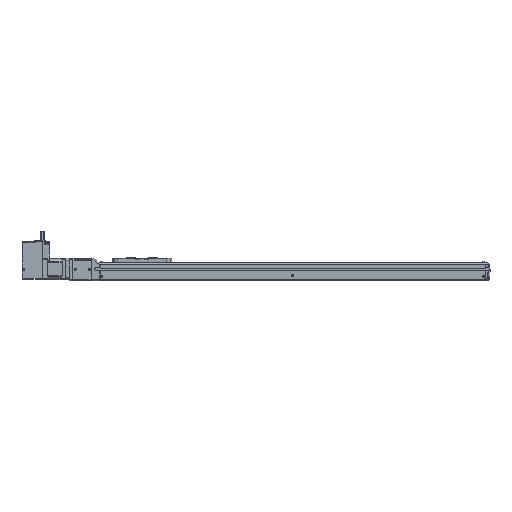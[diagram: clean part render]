
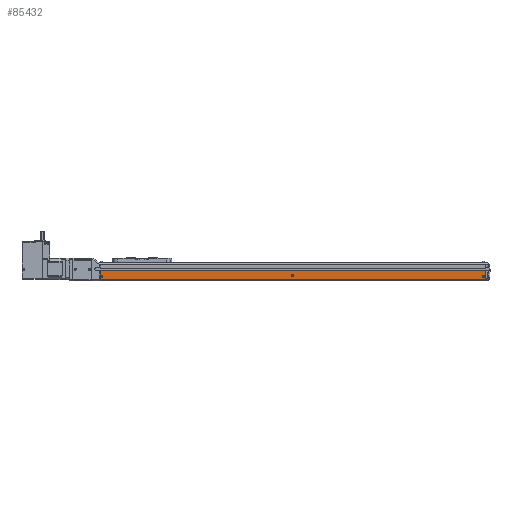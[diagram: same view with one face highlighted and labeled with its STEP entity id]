
A CAD part, front view. The second image highlights one B-rep face of the part: STEP entity #85432.
In plain terms, the highlighted planar face has unit normal (0, -1, 0) as drawn and (0, 0, 1) by its records, which use the part's own axes.
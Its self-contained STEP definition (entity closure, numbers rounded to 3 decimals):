
#68324 = PLANE('',#68325);
#68325 = AXIS2_PLACEMENT_3D('',#68326,#68327,#68328);
#68326 = CARTESIAN_POINT('',(-776.5,1.25,21.3));
#68327 = DIRECTION('',(1.,0.,0.));
#68328 = DIRECTION('',(0.,0.,-1.));
#68723 = PLANE('',#68724);
#68724 = AXIS2_PLACEMENT_3D('',#68725,#68726,#68727);
#68725 = CARTESIAN_POINT('',(-9.5,1.25,21.3));
#68726 = DIRECTION('',(1.,0.,0.));
#68727 = DIRECTION('',(0.,0.,-1.));
#85321 = CYLINDRICAL_SURFACE('',#85322,1.);
#85322 = AXIS2_PLACEMENT_3D('',#85323,#85324,#85325);
#85323 = CARTESIAN_POINT('',(-776.5,-20.734,20.5));
#85324 = DIRECTION('',(1.,0.,0.));
#85325 = DIRECTION('',(0.,0.,-1.));
#85359 = VERTEX_POINT('',#85360);
#85360 = CARTESIAN_POINT('',(-9.5,-20.734,21.5));
#85382 = EDGE_CURVE('',#85383,#85359,#85385,.T.);
#85383 = VERTEX_POINT('',#85384);
#85384 = CARTESIAN_POINT('',(-776.5,-20.734,21.5));
#85385 = SURFACE_CURVE('',#85386,(#85390,#85397),.PCURVE_S1.);
#85386 = LINE('',#85387,#85388);
#85387 = CARTESIAN_POINT('',(-776.5,-20.734,21.5));
#85388 = VECTOR('',#85389,1.);
#85389 = DIRECTION('',(1.,0.,0.));
#85390 = PCURVE('',#85321,#85391);
#85391 = DEFINITIONAL_REPRESENTATION('',(#85392),#85396);
#85392 = LINE('',#85393,#85394);
#85393 = CARTESIAN_POINT('',(3.142,0.));
#85394 = VECTOR('',#85395,1.);
#85395 = DIRECTION('',(0.,1.));
#85396 = ( GEOMETRIC_REPRESENTATION_CONTEXT(2) 
PARAMETRIC_REPRESENTATION_CONTEXT() REPRESENTATION_CONTEXT('2D SPACE',''
  ) );
#85397 = PCURVE('',#85398,#85403);
#85398 = PLANE('',#85399);
#85399 = AXIS2_PLACEMENT_3D('',#85400,#85401,#85402);
#85400 = CARTESIAN_POINT('',(-776.5,-2.65,21.5));
#85401 = DIRECTION('',(0.,0.,1.));
#85402 = DIRECTION('',(1.,0.,-0.));
#85403 = DEFINITIONAL_REPRESENTATION('',(#85404),#85408);
#85404 = LINE('',#85405,#85406);
#85405 = CARTESIAN_POINT('',(0.,-18.084));
#85406 = VECTOR('',#85407,1.);
#85407 = DIRECTION('',(1.,0.));
#85408 = ( GEOMETRIC_REPRESENTATION_CONTEXT(2) 
PARAMETRIC_REPRESENTATION_CONTEXT() REPRESENTATION_CONTEXT('2D SPACE',''
  ) );
#85432 = ADVANCED_FACE('',(#85433,#85468,#85499,#85530),#85398,.T.);
#85433 = FACE_BOUND('',#85434,.T.);
#85434 = EDGE_LOOP('',(#85435));
#85435 = ORIENTED_EDGE('',*,*,#85436,.T.);
#85436 = EDGE_CURVE('',#85437,#85437,#85439,.T.);
#85437 = VERTEX_POINT('',#85438);
#85438 = CARTESIAN_POINT('',(-395.25,-13.5,21.5));
#85439 = SURFACE_CURVE('',#85440,(#85445,#85456),.PCURVE_S1.);
#85440 = CIRCLE('',#85441,2.25);
#85441 = AXIS2_PLACEMENT_3D('',#85442,#85443,#85444);
#85442 = CARTESIAN_POINT('',(-393.,-13.5,21.5));
#85443 = DIRECTION('',(0.,0.,-1.));
#85444 = DIRECTION('',(-1.,0.,0.));
#85445 = PCURVE('',#85398,#85446);
#85446 = DEFINITIONAL_REPRESENTATION('',(#85447),#85455);
#85447 = ( BOUNDED_CURVE() B_SPLINE_CURVE(2,(#85448,#85449,#85450,#85451
    ,#85452,#85453,#85454),.UNSPECIFIED.,.T.,.F.) 
B_SPLINE_CURVE_WITH_KNOTS((1,2,2,2,2,1),(-2.094,0.,
    2.094,4.189,6.283,8.378),
.UNSPECIFIED.) CURVE() GEOMETRIC_REPRESENTATION_ITEM() 
RATIONAL_B_SPLINE_CURVE((1.,0.5,1.,0.5,1.,0.5,1.)) REPRESENTATION_ITEM(
  '') );
#85448 = CARTESIAN_POINT('',(381.25,-10.85));
#85449 = CARTESIAN_POINT('',(381.25,-6.953));
#85450 = CARTESIAN_POINT('',(384.625,-8.901));
#85451 = CARTESIAN_POINT('',(388.,-10.85));
#85452 = CARTESIAN_POINT('',(384.625,-12.799));
#85453 = CARTESIAN_POINT('',(381.25,-14.747));
#85454 = CARTESIAN_POINT('',(381.25,-10.85));
#85455 = ( GEOMETRIC_REPRESENTATION_CONTEXT(2) 
PARAMETRIC_REPRESENTATION_CONTEXT() REPRESENTATION_CONTEXT('2D SPACE',''
  ) );
#85456 = PCURVE('',#85457,#85462);
#85457 = CONICAL_SURFACE('',#85458,2.181,0.087);
#85458 = AXIS2_PLACEMENT_3D('',#85459,#85460,#85461);
#85459 = CARTESIAN_POINT('',(-393.,-13.5,22.289));
#85460 = DIRECTION('',(0.,0.,-1.));
#85461 = DIRECTION('',(-1.,0.,0.));
#85462 = DEFINITIONAL_REPRESENTATION('',(#85463),#85467);
#85463 = LINE('',#85464,#85465);
#85464 = CARTESIAN_POINT('',(0.,0.789));
#85465 = VECTOR('',#85466,1.);
#85466 = DIRECTION('',(1.,0.));
#85467 = ( GEOMETRIC_REPRESENTATION_CONTEXT(2) 
PARAMETRIC_REPRESENTATION_CONTEXT() REPRESENTATION_CONTEXT('2D SPACE',''
  ) );
#85468 = FACE_BOUND('',#85469,.T.);
#85469 = EDGE_LOOP('',(#85470));
#85470 = ORIENTED_EDGE('',*,*,#85471,.F.);
#85471 = EDGE_CURVE('',#85472,#85472,#85474,.T.);
#85472 = VERTEX_POINT('',#85473);
#85473 = CARTESIAN_POINT('',(-770.71,-14.5,21.5));
#85474 = SURFACE_CURVE('',#85475,(#85480,#85487),.PCURVE_S1.);
#85475 = CIRCLE('',#85476,2.29);
#85476 = AXIS2_PLACEMENT_3D('',#85477,#85478,#85479);
#85477 = CARTESIAN_POINT('',(-773.,-14.5,21.5));
#85478 = DIRECTION('',(0.,0.,1.));
#85479 = DIRECTION('',(1.,0.,-0.));
#85480 = PCURVE('',#85398,#85481);
#85481 = DEFINITIONAL_REPRESENTATION('',(#85482),#85486);
#85482 = CIRCLE('',#85483,2.29);
#85483 = AXIS2_PLACEMENT_2D('',#85484,#85485);
#85484 = CARTESIAN_POINT('',(3.5,-11.85));
#85485 = DIRECTION('',(1.,0.));
#85486 = ( GEOMETRIC_REPRESENTATION_CONTEXT(2) 
PARAMETRIC_REPRESENTATION_CONTEXT() REPRESENTATION_CONTEXT('2D SPACE',''
  ) );
#85487 = PCURVE('',#85488,#85493);
#85488 = CONICAL_SURFACE('',#85489,2.29,0.087);
#85489 = AXIS2_PLACEMENT_3D('',#85490,#85491,#85492);
#85490 = CARTESIAN_POINT('',(-773.,-14.5,21.5));
#85491 = DIRECTION('',(0.,0.,-1.));
#85492 = DIRECTION('',(-1.,0.,0.));
#85493 = DEFINITIONAL_REPRESENTATION('',(#85494),#85498);
#85494 = LINE('',#85495,#85496);
#85495 = CARTESIAN_POINT('',(9.425,0.));
#85496 = VECTOR('',#85497,1.);
#85497 = DIRECTION('',(-1.,0.));
#85498 = ( GEOMETRIC_REPRESENTATION_CONTEXT(2) 
PARAMETRIC_REPRESENTATION_CONTEXT() REPRESENTATION_CONTEXT('2D SPACE',''
  ) );
#85499 = FACE_BOUND('',#85500,.T.);
#85500 = EDGE_LOOP('',(#85501));
#85501 = ORIENTED_EDGE('',*,*,#85502,.F.);
#85502 = EDGE_CURVE('',#85503,#85503,#85505,.T.);
#85503 = VERTEX_POINT('',#85504);
#85504 = CARTESIAN_POINT('',(-10.71,-14.5,21.5));
#85505 = SURFACE_CURVE('',#85506,(#85511,#85518),.PCURVE_S1.);
#85506 = CIRCLE('',#85507,2.29);
#85507 = AXIS2_PLACEMENT_3D('',#85508,#85509,#85510);
#85508 = CARTESIAN_POINT('',(-13.,-14.5,21.5));
#85509 = DIRECTION('',(0.,0.,1.));
#85510 = DIRECTION('',(1.,0.,-0.));
#85511 = PCURVE('',#85398,#85512);
#85512 = DEFINITIONAL_REPRESENTATION('',(#85513),#85517);
#85513 = CIRCLE('',#85514,2.29);
#85514 = AXIS2_PLACEMENT_2D('',#85515,#85516);
#85515 = CARTESIAN_POINT('',(763.5,-11.85));
#85516 = DIRECTION('',(1.,0.));
#85517 = ( GEOMETRIC_REPRESENTATION_CONTEXT(2) 
PARAMETRIC_REPRESENTATION_CONTEXT() REPRESENTATION_CONTEXT('2D SPACE',''
  ) );
#85518 = PCURVE('',#85519,#85524);
#85519 = CONICAL_SURFACE('',#85520,2.29,0.087);
#85520 = AXIS2_PLACEMENT_3D('',#85521,#85522,#85523);
#85521 = CARTESIAN_POINT('',(-13.,-14.5,21.5));
#85522 = DIRECTION('',(0.,0.,-1.));
#85523 = DIRECTION('',(-1.,0.,0.));
#85524 = DEFINITIONAL_REPRESENTATION('',(#85525),#85529);
#85525 = LINE('',#85526,#85527);
#85526 = CARTESIAN_POINT('',(9.425,0.));
#85527 = VECTOR('',#85528,1.);
#85528 = DIRECTION('',(-1.,0.));
#85529 = ( GEOMETRIC_REPRESENTATION_CONTEXT(2) 
PARAMETRIC_REPRESENTATION_CONTEXT() REPRESENTATION_CONTEXT('2D SPACE',''
  ) );
#85530 = FACE_BOUND('',#85531,.T.);
#85531 = EDGE_LOOP('',(#85532,#85555,#85583,#85604));
#85532 = ORIENTED_EDGE('',*,*,#85533,.F.);
#85533 = EDGE_CURVE('',#85534,#85359,#85536,.T.);
#85534 = VERTEX_POINT('',#85535);
#85535 = CARTESIAN_POINT('',(-9.5,-2.65,21.5));
#85536 = SURFACE_CURVE('',#85537,(#85541,#85548),.PCURVE_S1.);
#85537 = LINE('',#85538,#85539);
#85538 = CARTESIAN_POINT('',(-9.5,-2.65,21.5));
#85539 = VECTOR('',#85540,1.);
#85540 = DIRECTION('',(0.,-1.,0.));
#85541 = PCURVE('',#85398,#85542);
#85542 = DEFINITIONAL_REPRESENTATION('',(#85543),#85547);
#85543 = LINE('',#85544,#85545);
#85544 = CARTESIAN_POINT('',(767.,0.));
#85545 = VECTOR('',#85546,1.);
#85546 = DIRECTION('',(0.,-1.));
#85547 = ( GEOMETRIC_REPRESENTATION_CONTEXT(2) 
PARAMETRIC_REPRESENTATION_CONTEXT() REPRESENTATION_CONTEXT('2D SPACE',''
  ) );
#85548 = PCURVE('',#68723,#85549);
#85549 = DEFINITIONAL_REPRESENTATION('',(#85550),#85554);
#85550 = LINE('',#85551,#85552);
#85551 = CARTESIAN_POINT('',(-0.2,-3.9));
#85552 = VECTOR('',#85553,1.);
#85553 = DIRECTION('',(0.,-1.));
#85554 = ( GEOMETRIC_REPRESENTATION_CONTEXT(2) 
PARAMETRIC_REPRESENTATION_CONTEXT() REPRESENTATION_CONTEXT('2D SPACE',''
  ) );
#85555 = ORIENTED_EDGE('',*,*,#85556,.F.);
#85556 = EDGE_CURVE('',#85557,#85534,#85559,.T.);
#85557 = VERTEX_POINT('',#85558);
#85558 = CARTESIAN_POINT('',(-776.5,-2.65,21.5));
#85559 = SURFACE_CURVE('',#85560,(#85564,#85571),.PCURVE_S1.);
#85560 = LINE('',#85561,#85562);
#85561 = CARTESIAN_POINT('',(-776.5,-2.65,21.5));
#85562 = VECTOR('',#85563,1.);
#85563 = DIRECTION('',(1.,0.,0.));
#85564 = PCURVE('',#85398,#85565);
#85565 = DEFINITIONAL_REPRESENTATION('',(#85566),#85570);
#85566 = LINE('',#85567,#85568);
#85567 = CARTESIAN_POINT('',(0.,0.));
#85568 = VECTOR('',#85569,1.);
#85569 = DIRECTION('',(1.,0.));
#85570 = ( GEOMETRIC_REPRESENTATION_CONTEXT(2) 
PARAMETRIC_REPRESENTATION_CONTEXT() REPRESENTATION_CONTEXT('2D SPACE',''
  ) );
#85571 = PCURVE('',#85572,#85577);
#85572 = CYLINDRICAL_SURFACE('',#85573,0.2);
#85573 = AXIS2_PLACEMENT_3D('',#85574,#85575,#85576);
#85574 = CARTESIAN_POINT('',(-776.5,-2.65,21.3));
#85575 = DIRECTION('',(1.,0.,0.));
#85576 = DIRECTION('',(0.,0.,-1.));
#85577 = DEFINITIONAL_REPRESENTATION('',(#85578),#85582);
#85578 = LINE('',#85579,#85580);
#85579 = CARTESIAN_POINT('',(3.142,0.));
#85580 = VECTOR('',#85581,1.);
#85581 = DIRECTION('',(0.,1.));
#85582 = ( GEOMETRIC_REPRESENTATION_CONTEXT(2) 
PARAMETRIC_REPRESENTATION_CONTEXT() REPRESENTATION_CONTEXT('2D SPACE',''
  ) );
#85583 = ORIENTED_EDGE('',*,*,#85584,.T.);
#85584 = EDGE_CURVE('',#85557,#85383,#85585,.T.);
#85585 = SURFACE_CURVE('',#85586,(#85590,#85597),.PCURVE_S1.);
#85586 = LINE('',#85587,#85588);
#85587 = CARTESIAN_POINT('',(-776.5,-2.65,21.5));
#85588 = VECTOR('',#85589,1.);
#85589 = DIRECTION('',(0.,-1.,0.));
#85590 = PCURVE('',#85398,#85591);
#85591 = DEFINITIONAL_REPRESENTATION('',(#85592),#85596);
#85592 = LINE('',#85593,#85594);
#85593 = CARTESIAN_POINT('',(0.,0.));
#85594 = VECTOR('',#85595,1.);
#85595 = DIRECTION('',(0.,-1.));
#85596 = ( GEOMETRIC_REPRESENTATION_CONTEXT(2) 
PARAMETRIC_REPRESENTATION_CONTEXT() REPRESENTATION_CONTEXT('2D SPACE',''
  ) );
#85597 = PCURVE('',#68324,#85598);
#85598 = DEFINITIONAL_REPRESENTATION('',(#85599),#85603);
#85599 = LINE('',#85600,#85601);
#85600 = CARTESIAN_POINT('',(-0.2,-3.9));
#85601 = VECTOR('',#85602,1.);
#85602 = DIRECTION('',(0.,-1.));
#85603 = ( GEOMETRIC_REPRESENTATION_CONTEXT(2) 
PARAMETRIC_REPRESENTATION_CONTEXT() REPRESENTATION_CONTEXT('2D SPACE',''
  ) );
#85604 = ORIENTED_EDGE('',*,*,#85382,.T.);
